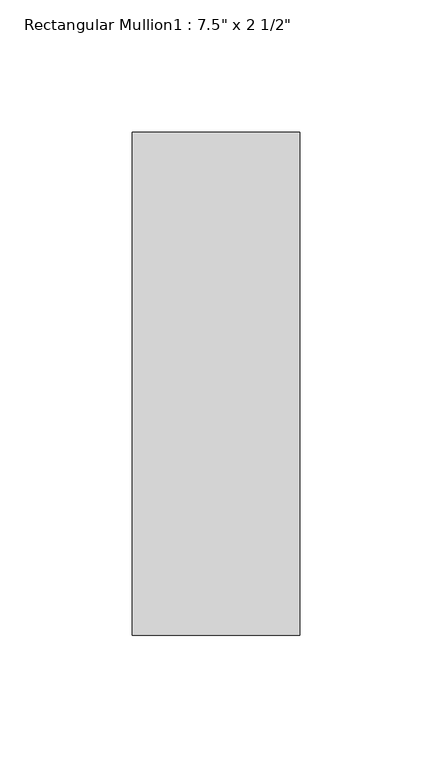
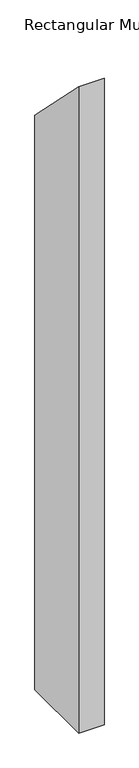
"""IFC4 building model written with IfcOpenShell, lengths in millimetres: member geometry."""

from ifc_helpers import new_model, si_unit, frame, origin, place, context, project, spatial, polyline, outline, extrude, source, transform, mapped, element, save


def member_7f2db3af(model_context):
    return source(origin(), model_context, "Body", "SweptSolid", [
        extrude(outline(polyline([(-25.4, 25.4), (165.1, -165.1), (165.1, -1689.1), (-25.4, -1689.1), (-25.4, 25.4)])), frame((-31.75, 0.0, 0.0), z_axis=(1.0, 0.0, 0.0), x_axis=(0.0, 1.0, 0.0)), (0.0, 0.0, 1.0), 63.5),
    ])


if __name__ == "__main__":
    model = new_model("IFC4")
    model_context = context("Model", 3, world=origin())
    ifc_project = project(units=[si_unit("LENGTHUNIT", "METRE", prefix="MILLI")], contexts=[model_context])
    site = spatial("IfcSite", under=ifc_project)
    building = spatial("IfcBuilding", under=site)
    placement = place(None, origin())
    member_shape = member_7f2db3af(model_context)
    element("IfcMember", 1, ObjectType="Rectangular Mullion1 : 7.5\" x 2 1/2\"", at=placement, inside=building, context=model_context, shape_type="MappedRepresentation", body=[
        mapped(member_shape, transform((0.0, 0.0, 0.0), x_axis=(1.0, 0.0, 0.0), y_axis=(0.0, 1.0, 0.0), z_axis=(0.0, 0.0, 1.0))),
    ])
    save(model, "model.ifc")
